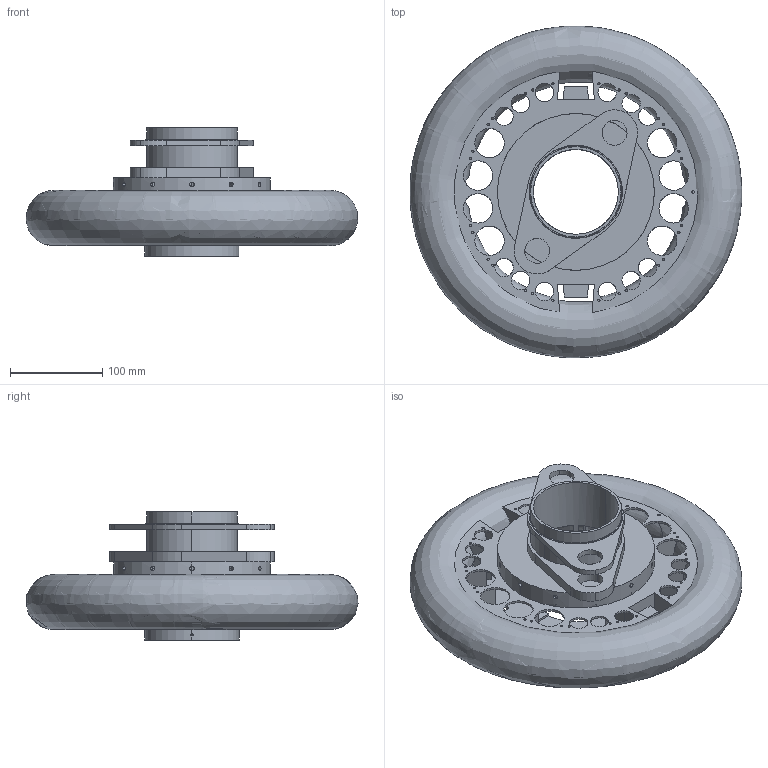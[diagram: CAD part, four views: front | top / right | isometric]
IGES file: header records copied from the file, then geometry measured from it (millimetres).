
Start section: IMSI TurboCAD v14.0
Global section: author: NULL; organization: NULL; date: 20250711.181505; units: millimetre
Bounding box: 359.62 x 359.86 x 139.5 mm (x, y, z)
Surface area: 675847.1 mm2 (no closed solid volume)
Topology: 0 solids, 0 shells, 836 faces, 4710 edges, 4710 vertices
Faces by surface type: revolution 678, extrusion 158
